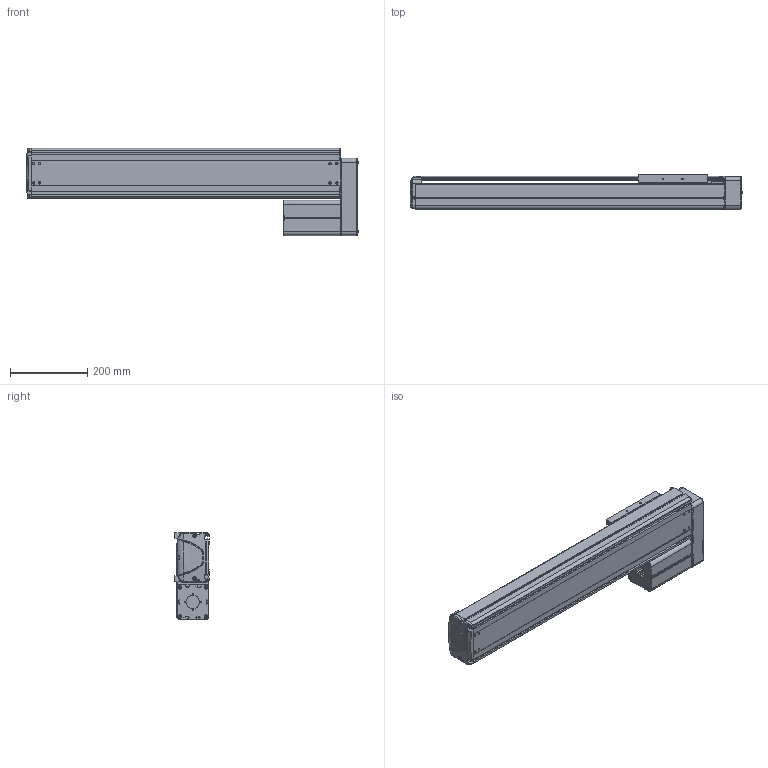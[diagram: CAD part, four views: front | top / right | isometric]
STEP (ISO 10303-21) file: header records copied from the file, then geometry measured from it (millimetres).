
FILE_DESCRIPTION((''),'2;1');
FILE_NAME('BE30E-UL-L_N-55_IGS_PRT','2017-06-17T',(' '),(''),'PRO/ENGINEER BY PARAMETRIC TECHNOLOGY CORPORATION, 2015030','PRO/ENGINEER BY PARAMETRIC TECHNOLOGY CORPORATION, 2015030','');
FILE_SCHEMA(('CONFIG_CONTROL_DESIGN'));
Products named in the file (1): BE30E-UL-L_N-55_IGS_PRT
Bounding box: 861.9 x 89.8 x 227 mm (x, y, z)
Volume: 3003781.4 mm3; surface area: 1313463 mm2
Topology: 2 solids, 120 shells, 2019 faces, 5441 edges, 3540 vertices
Faces by surface type: plane 992, cylinder 835, cone 101, torus 39, bspline 28, sphere 24
Entity records: 65408 total; most frequent: CARTESIAN_POINT 13837, DIRECTION 10905, ORIENTED_EDGE 10361, EDGE_CURVE 5403, AXIS2_PLACEMENT_3D 3837, VERTEX_POINT 3540, VECTOR 3231, LINE 3231
